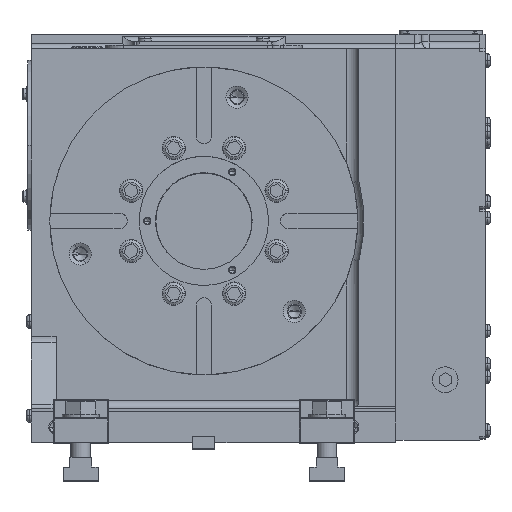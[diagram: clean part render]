
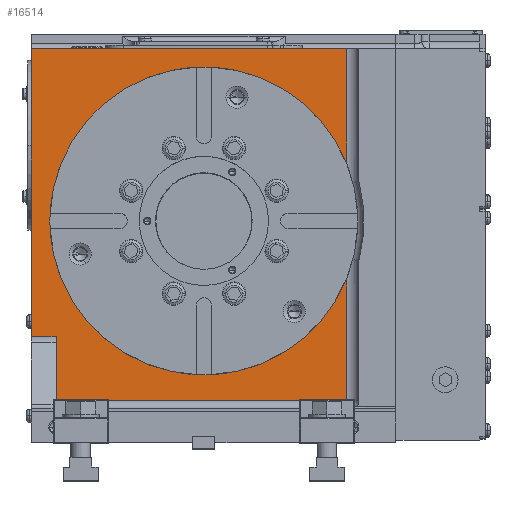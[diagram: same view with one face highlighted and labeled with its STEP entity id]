
A CAD part, top view. The second image highlights one B-rep face of the part: STEP entity #16514.
In plain terms, the highlighted planar face has unit normal (0, 0, 1) as drawn and (1, 0, 0) by its records, which use the part's own axes.
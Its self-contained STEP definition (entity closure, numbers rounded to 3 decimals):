
#1157 = VERTEX_POINT ( 'NONE', #35179 ) ;
#2681 = EDGE_CURVE ( 'NONE', #1157, #43014, #70361, .T. ) ;
#2705 = CARTESIAN_POINT ( 'NONE',  ( 158., -93.895, 120. ) ) ;
#7321 = VERTEX_POINT ( 'NONE', #46361 ) ;
#7706 = ORIENTED_EDGE ( 'NONE', *, *, #42945, .F. ) ;
#13460 = CARTESIAN_POINT ( 'NONE',  ( 158., 0., 0. ) ) ;
#14310 = CARTESIAN_POINT ( 'NONE',  ( 158., 0., 0. ) ) ;
#14841 = DIRECTION ( 'NONE',  ( 1., 0., 0. ) ) ;
#15783 = ORIENTED_EDGE ( 'NONE', *, *, #88251, .T. ) ;
#16514 = ADVANCED_FACE ( 'NONE', ( #25645, #72970 ), #19229, .F. ) ;
#17429 = CARTESIAN_POINT ( 'NONE',  ( 158., 140., 140. ) ) ;
#19229 = PLANE ( 'NONE',  #27419 ) ;
#22430 = DIRECTION ( 'NONE',  ( 0., 0., 1. ) ) ;
#23039 = VECTOR ( 'NONE', #104327, 1000. ) ;
#23267 = DIRECTION ( 'NONE',  ( 0., 0., 1. ) ) ;
#24855 = ORIENTED_EDGE ( 'NONE', *, *, #86467, .T. ) ;
#25645 = FACE_OUTER_BOUND ( 'NONE', #59366, .T. ) ;
#25731 = VERTEX_POINT ( 'NONE', #35208 ) ;
#27419 = AXIS2_PLACEMENT_3D ( 'NONE', #90026, #81432, #28160 ) ;
#28160 = DIRECTION ( 'NONE',  ( 0., 0., 1. ) ) ;
#28620 = VECTOR ( 'NONE', #49938, 1000. ) ;
#28987 = VECTOR ( 'NONE', #61760, 1000. ) ;
#31727 = LINE ( 'NONE', #79616, #28987 ) ;
#32297 = CARTESIAN_POINT ( 'NONE',  ( 158., 0., -52.5 ) ) ;
#33828 = EDGE_CURVE ( 'NONE', #108309, #7321, #31727, .T. ) ;
#35179 = CARTESIAN_POINT ( 'NONE',  ( 158., 30.725, -116. ) ) ;
#35208 = CARTESIAN_POINT ( 'NONE',  ( 158., -146., -116. ) ) ;
#37284 = LINE ( 'NONE', #94057, #58074 ) ;
#38040 = VERTEX_POINT ( 'NONE', #32297 ) ;
#38273 = VERTEX_POINT ( 'NONE', #103029 ) ;
#38822 = VECTOR ( 'NONE', #97822, 1000. ) ;
#39462 = EDGE_CURVE ( 'NONE', #38040, #41375, #115074, .T. ) ;
#40114 = VERTEX_POINT ( 'NONE', #71496 ) ;
#41052 = CARTESIAN_POINT ( 'NONE',  ( 158., -152., 120. ) ) ;
#41375 = VERTEX_POINT ( 'NONE', #42270 ) ;
#42270 = CARTESIAN_POINT ( 'NONE',  ( 158., 0., 52.5 ) ) ;
#42945 = EDGE_CURVE ( 'NONE', #41375, #38040, #66945, .T. ) ;
#43014 = VERTEX_POINT ( 'NONE', #94745 ) ;
#46009 = EDGE_CURVE ( 'NONE', #25731, #40114, #37284, .T. ) ;
#46361 = CARTESIAN_POINT ( 'NONE',  ( 158., 140., 140. ) ) ;
#46802 = CARTESIAN_POINT ( 'NONE',  ( 158., -93.895, 140. ) ) ;
#47509 = ORIENTED_EDGE ( 'NONE', *, *, #46009, .T. ) ;
#49938 = DIRECTION ( 'NONE',  ( 0., -1., 0. ) ) ;
#55477 = AXIS2_PLACEMENT_3D ( 'NONE', #68123, #14841, #77050 ) ;
#55883 = EDGE_CURVE ( 'NONE', #108309, #71463, #58594, .T. ) ;
#58074 = VECTOR ( 'NONE', #76167, 1000. ) ;
#58594 = LINE ( 'NONE', #68943, #76704 ) ;
#59366 = EDGE_LOOP ( 'NONE', ( #15783, #85956, #47509, #24855, #61521, #68071, #80111, #104310 ) ) ;
#60383 = DIRECTION ( 'NONE',  ( 0., 0., -1. ) ) ;
#61334 = EDGE_CURVE ( 'NONE', #7321, #43014, #93776, .T. ) ;
#61521 = ORIENTED_EDGE ( 'NONE', *, *, #2681, .T. ) ;
#61760 = DIRECTION ( 'NONE',  ( 0., 1., 0. ) ) ;
#63391 = EDGE_CURVE ( 'NONE', #38273, #25731, #83340, .T. ) ;
#66945 = CIRCLE ( 'NONE', #102952, 52.5 ) ;
#68071 = ORIENTED_EDGE ( 'NONE', *, *, #61334, .F. ) ;
#68123 = CARTESIAN_POINT ( 'NONE',  ( 158., 0., 0. ) ) ;
#68943 = CARTESIAN_POINT ( 'NONE',  ( 158., -93.895, 140. ) ) ;
#70361 = LINE ( 'NONE', #77472, #23039 ) ;
#70701 = DIRECTION ( 'NONE',  ( 0., 0., -1. ) ) ;
#70943 = CIRCLE ( 'NONE', #78413, 120. ) ;
#71463 = VERTEX_POINT ( 'NONE', #2705 ) ;
#71496 = CARTESIAN_POINT ( 'NONE',  ( 158., -30.725, -116. ) ) ;
#72970 = FACE_BOUND ( 'NONE', #84266, .T. ) ;
#75679 = DIRECTION ( 'NONE',  ( 1., 0., 0. ) ) ;
#76167 = DIRECTION ( 'NONE',  ( 0., 1., 0. ) ) ;
#76550 = DIRECTION ( 'NONE',  ( 1., 0., 0. ) ) ;
#76704 = VECTOR ( 'NONE', #60383, 1000. ) ;
#77050 = DIRECTION ( 'NONE',  ( 0., 0., 1. ) ) ;
#77472 = CARTESIAN_POINT ( 'NONE',  ( 158., -152., -116. ) ) ;
#78413 = AXIS2_PLACEMENT_3D ( 'NONE', #14310, #76550, #23267 ) ;
#79616 = CARTESIAN_POINT ( 'NONE',  ( 158., -152., 140. ) ) ;
#80111 = ORIENTED_EDGE ( 'NONE', *, *, #33828, .F. ) ;
#80288 = CARTESIAN_POINT ( 'NONE',  ( 158., -146., -116. ) ) ;
#81432 = DIRECTION ( 'NONE',  ( -1., 0., 0. ) ) ;
#83340 = LINE ( 'NONE', #80288, #38822 ) ;
#84266 = EDGE_LOOP ( 'NONE', ( #7706, #107928 ) ) ;
#85956 = ORIENTED_EDGE ( 'NONE', *, *, #63391, .T. ) ;
#86467 = EDGE_CURVE ( 'NONE', #40114, #1157, #70943, .T. ) ;
#88251 = EDGE_CURVE ( 'NONE', #71463, #38273, #96807, .T. ) ;
#90026 = CARTESIAN_POINT ( 'NONE',  ( 158., -152., 140. ) ) ;
#91016 = VECTOR ( 'NONE', #70701, 1000. ) ;
#93776 = LINE ( 'NONE', #17429, #91016 ) ;
#94057 = CARTESIAN_POINT ( 'NONE',  ( 158., -152., -116. ) ) ;
#94745 = CARTESIAN_POINT ( 'NONE',  ( 158., 140., -116. ) ) ;
#96807 = LINE ( 'NONE', #41052, #28620 ) ;
#97822 = DIRECTION ( 'NONE',  ( 0., 0., -1. ) ) ;
#102952 = AXIS2_PLACEMENT_3D ( 'NONE', #13460, #75679, #22430 ) ;
#103029 = CARTESIAN_POINT ( 'NONE',  ( 158., -146., 120. ) ) ;
#104310 = ORIENTED_EDGE ( 'NONE', *, *, #55883, .T. ) ;
#104327 = DIRECTION ( 'NONE',  ( 0., 1., 0. ) ) ;
#107928 = ORIENTED_EDGE ( 'NONE', *, *, #39462, .F. ) ;
#108309 = VERTEX_POINT ( 'NONE', #46802 ) ;
#115074 = CIRCLE ( 'NONE', #55477, 52.5 ) ;
